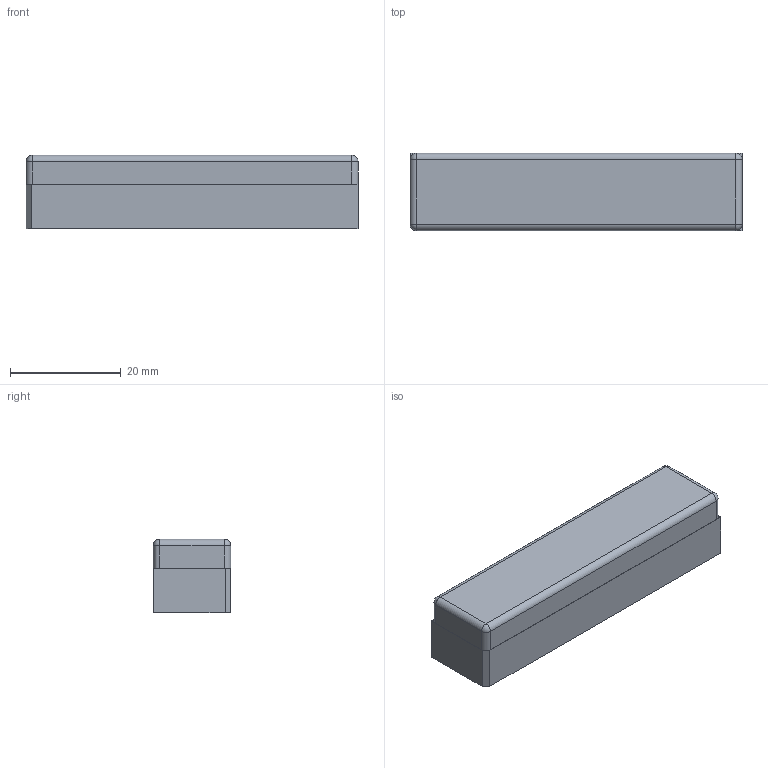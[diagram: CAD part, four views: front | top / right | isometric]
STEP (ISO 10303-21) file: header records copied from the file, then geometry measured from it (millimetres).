
FILE_DESCRIPTION((''),'2;1');
FILE_NAME('2198T-N1-5750_ASM','2024-08-21T14:33:55',('RRajan1'),('Rockwell Automation'),'CREO PARAMETRIC BY PTC INC, 2020281','CREO PARAMETRIC BY PTC INC, 2020281','');
FILE_SCHEMA(('CONFIG_CONTROL_DESIGN'));
Length unit declared in the file: millimetre
Products named in the file (4): W0000056578_2; W0000056820_2; W0000056703_ASM_1_ASM; 2198T-N1-5750_ASM
Assembly tree (3 placements, depth 3):
  2198T-N1-5750_ASM
    W0000056703_ASM_1_ASM
      W0000056578_2
      W0000056820_2
Bounding box: 60 x 14 x 13.25 mm (x, y, z)
Volume: 6854.2 mm3; surface area: 6143.7 mm2
Topology: 2 solids, 2 shells, 60 faces, 147 edges, 86 vertices
Faces by surface type: cylinder 28, plane 20, sphere 8, cone 4
Entity records: 1845 total; most frequent: DIRECTION 345, CARTESIAN_POINT 294, ORIENTED_EDGE 278, EDGE_CURVE 139, AXIS2_PLACEMENT_3D 137, VERTEX_POINT 86, VECTOR 71, LINE 71
